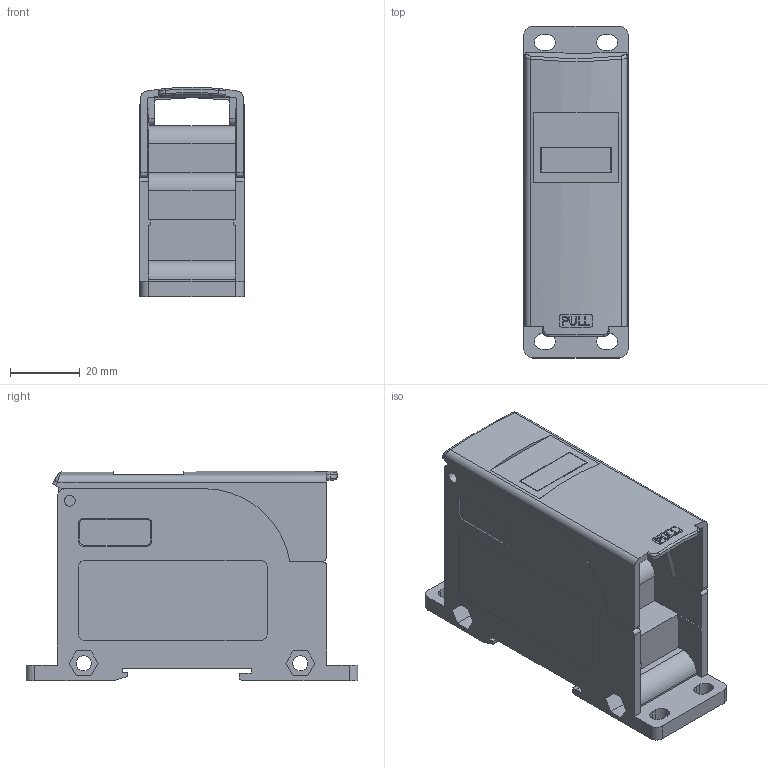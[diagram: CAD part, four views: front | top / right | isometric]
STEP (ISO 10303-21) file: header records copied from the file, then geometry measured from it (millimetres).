
FILE_DESCRIPTION(/* description */ (''),/* implementation_level */ '2;1');
FILE_NAME(/* name */ '',/* time_stamp */ '2016-09-21T13:24:42+09:00',/* author */ (''),/* organization */ (''),/* preprocessor_version */ 'ST-DEVELOPER v11',/* originating_system */ 'SIEMENS UGS NX 6.0',/* authorisation */ '');
FILE_SCHEMA (('CONFIG_CONTROL_DESIGN'));
Length unit declared in the file: millimetre
Products named in the file (1): ksleA0B3tueg
Bounding box: 29.8 x 95 x 59.99 mm (x, y, z)
Volume: 78104.2 mm3; surface area: 27663.8 mm2
Topology: 1 solids, 1 shells, 258 faces, 721 edges, 476 vertices
Faces by surface type: plane 179, cylinder 57, bspline 8, cone 6, extrusion 6, torus 2
Full cylindrical faces by diameter (mm): 3.1 x2, 4.3 x2
Entity records: 9163 total; most frequent: CARTESIAN_POINT 2366, ORIENTED_EDGE 1438, DIRECTION 1318, EDGE_CURVE 719, VECTOR 534, LINE 528, VERTEX_POINT 482, AXIS2_PLACEMENT_3D 392
